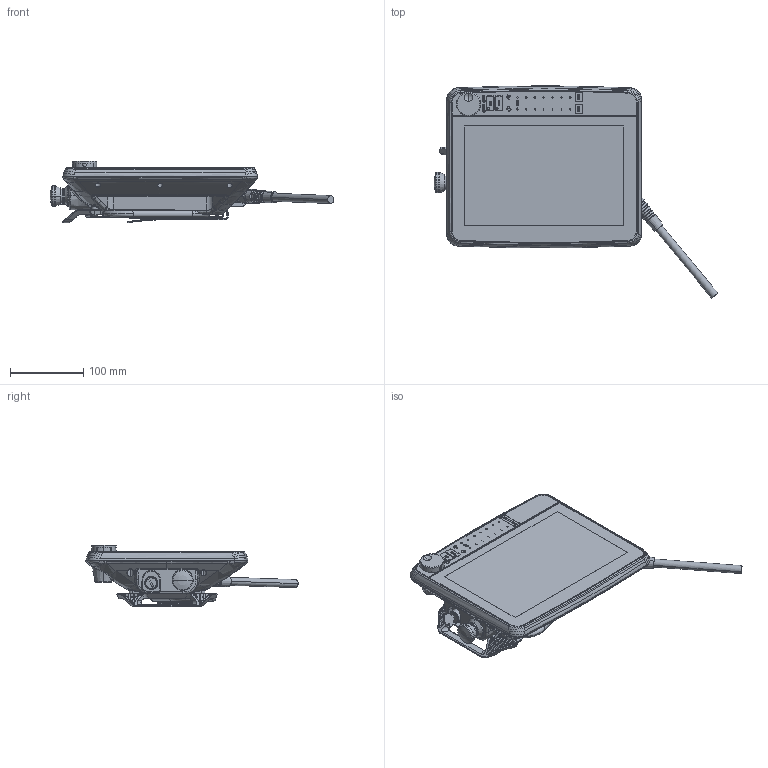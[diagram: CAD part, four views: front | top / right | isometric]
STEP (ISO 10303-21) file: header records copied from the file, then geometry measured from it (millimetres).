
FILE_DESCRIPTION(('STEP AP214'),'1');
FILE_NAME('20210401_C150_Mitsubishi_customer_model.stp','2021-04-01T12:32:16',('3D-Tool'),(' '),'Spatial InterOp 3D',' ',' ');
FILE_SCHEMA(('AUTOMOTIVE_DESIGN { 1 0 10303 214 1 1 1 1 }'));
Length unit declared in the file: millimetre
Products named in the file (1): 1
Bounding box: 387.37 x 289.86 x 84.2 mm (x, y, z)
Volume: 2424272 mm3; surface area: 218569.6 mm2
Topology: 1 solids, 11 shells, 4387 faces, 11271 edges, 6922 vertices
Faces by surface type: cylinder 1161, bspline 1147, plane 921, torus 520, extrusion 277, cone 251, sphere 110
Entity records: 252084 total; most frequent: CARTESIAN_POINT 122142, ORIENTED_EDGE 22164, DIRECTION 16702, EDGE_CURVE 11082, VERTEX_POINT 6922, AXIS2_PLACEMENT_3D 6676, EDGE_LOOP 4636, FACE_OUTER_BOUND 4389
